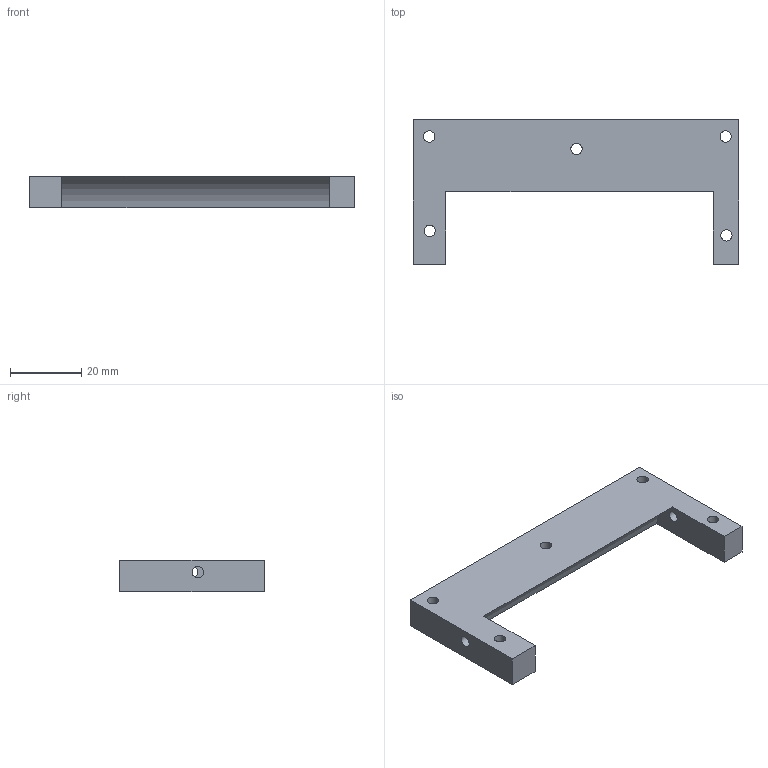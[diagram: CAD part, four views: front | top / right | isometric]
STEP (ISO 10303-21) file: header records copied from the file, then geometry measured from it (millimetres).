
FILE_DESCRIPTION(/* description */ (''),/* implementation_level */ '2;1');
FILE_NAME(/* name */ 'batteryholder_topwall.step',/* time_stamp */ '2026-06-10T02:32:32-04:00',/* author */ (''),/* organization */ (''),/* preprocessor_version */ 'ST-DEVELOPER v20.1',/* originating_system */ 'Autodesk Translation Framework v15.8.0.0',/* authorisation */ '');
FILE_SCHEMA (('AUTOMOTIVE_DESIGN { 1 0 10303 214 3 1 1 }'));
Length unit declared in the file: inch
Products named in the file (1): 2026-06-10-02-32-32-075
Bounding box: 91.44 x 40.64 x 8.89 mm (x, y, z)
Volume: 16012.8 mm3; surface area: 7356.5 mm2
Topology: 1 solids, 1 shells, 17 faces, 45 edges, 30 vertices
Faces by surface type: plane 9, cylinder 8
Full cylindrical faces by diameter (mm): 3.175 x7
Entity records: 605 total; most frequent: DIRECTION 97, CARTESIAN_POINT 93, ORIENTED_EDGE 90, EDGE_CURVE 45, AXIS2_PLACEMENT_3D 34, EDGE_LOOP 31, VERTEX_POINT 30, LINE 29
